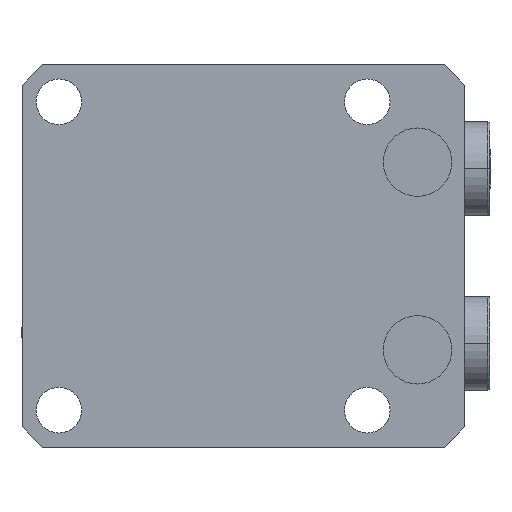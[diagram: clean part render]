
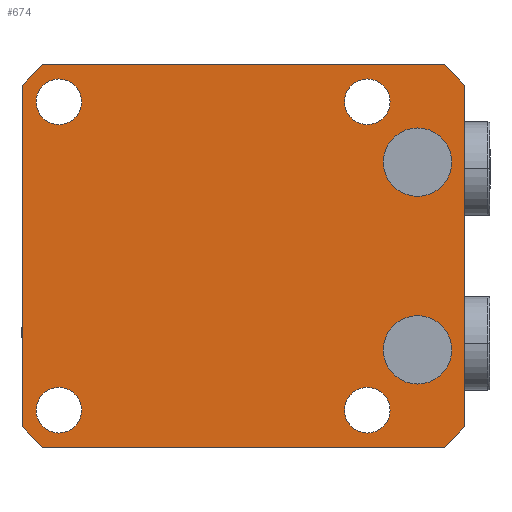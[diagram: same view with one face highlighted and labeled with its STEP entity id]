
A CAD part, front view. The second image highlights one B-rep face of the part: STEP entity #674.
In plain terms, the highlighted planar face has unit normal (0, -1, 0).
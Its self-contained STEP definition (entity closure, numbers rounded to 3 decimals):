
#256=PLANE('',#5001);
#310=FACE_BOUND('',#1192,.T.);
#311=FACE_BOUND('',#1193,.T.);
#312=FACE_BOUND('',#1194,.T.);
#313=FACE_BOUND('',#1195,.T.);
#314=FACE_BOUND('',#1196,.T.);
#315=FACE_BOUND('',#1197,.T.);
#316=FACE_BOUND('',#1198,.T.);
#674=ADVANCED_FACE('',(#310,#311,#312,#313,#314,#315,#316),#256,.T.);
#1192=EDGE_LOOP('',(#2981,#2982));
#1193=EDGE_LOOP('',(#2983,#2984));
#1194=EDGE_LOOP('',(#2985,#2986));
#1195=EDGE_LOOP('',(#2987,#2988));
#1196=EDGE_LOOP('',(#2989,#2990));
#1197=EDGE_LOOP('',(#2991,#2992));
#1198=EDGE_LOOP('',(#2993,#2994,#2995,#2996,#2997,#2998,#2999,#3000));
#1528=LINE('',#7769,#1862);
#1548=LINE('',#8021,#1882);
#1549=LINE('',#8024,#1883);
#1550=LINE('',#8025,#1884);
#1551=LINE('',#8027,#1885);
#1552=LINE('',#8029,#1886);
#1553=LINE('',#8031,#1887);
#1554=LINE('',#8033,#1888);
#1862=VECTOR('',#6206,1.);
#1882=VECTOR('',#6270,1.);
#1883=VECTOR('',#6271,1.);
#1884=VECTOR('',#6272,1.);
#1885=VECTOR('',#6273,1.);
#1886=VECTOR('',#6274,1.);
#1887=VECTOR('',#6275,1.);
#1888=VECTOR('',#6276,1.);
#2981=ORIENTED_EDGE('',*,*,#4220,.F.);
#2982=ORIENTED_EDGE('',*,*,#4082,.F.);
#2983=ORIENTED_EDGE('',*,*,#4221,.F.);
#2984=ORIENTED_EDGE('',*,*,#4086,.F.);
#2985=ORIENTED_EDGE('',*,*,#4213,.T.);
#2986=ORIENTED_EDGE('',*,*,#4148,.T.);
#2987=ORIENTED_EDGE('',*,*,#4209,.T.);
#2988=ORIENTED_EDGE('',*,*,#4156,.T.);
#2989=ORIENTED_EDGE('',*,*,#4207,.T.);
#2990=ORIENTED_EDGE('',*,*,#4160,.T.);
#2991=ORIENTED_EDGE('',*,*,#4211,.T.);
#2992=ORIENTED_EDGE('',*,*,#4152,.T.);
#2993=ORIENTED_EDGE('',*,*,#4222,.F.);
#2994=ORIENTED_EDGE('',*,*,#4223,.T.);
#2995=ORIENTED_EDGE('',*,*,#4176,.F.);
#2996=ORIENTED_EDGE('',*,*,#4224,.T.);
#2997=ORIENTED_EDGE('',*,*,#4225,.F.);
#2998=ORIENTED_EDGE('',*,*,#4226,.T.);
#2999=ORIENTED_EDGE('',*,*,#4227,.F.);
#3000=ORIENTED_EDGE('',*,*,#4228,.T.);
#3506=VERTEX_POINT('',#7456);
#3507=VERTEX_POINT('',#7458);
#3510=VERTEX_POINT('',#7465);
#3511=VERTEX_POINT('',#7467);
#3564=VERTEX_POINT('',#7697);
#3565=VERTEX_POINT('',#7698);
#3568=VERTEX_POINT('',#7706);
#3569=VERTEX_POINT('',#7707);
#3572=VERTEX_POINT('',#7715);
#3573=VERTEX_POINT('',#7716);
#3576=VERTEX_POINT('',#7724);
#3577=VERTEX_POINT('',#7725);
#3592=VERTEX_POINT('',#7770);
#3593=VERTEX_POINT('',#7771);
#3615=VERTEX_POINT('',#8022);
#3616=VERTEX_POINT('',#8023);
#3617=VERTEX_POINT('',#8026);
#3618=VERTEX_POINT('',#8028);
#3619=VERTEX_POINT('',#8030);
#3620=VERTEX_POINT('',#8032);
#4082=EDGE_CURVE('',#3506,#3507,#4484,.T.);
#4086=EDGE_CURVE('',#3510,#3511,#4486,.T.);
#4148=EDGE_CURVE('',#3564,#3565,#4506,.T.);
#4152=EDGE_CURVE('',#3568,#3569,#4508,.T.);
#4156=EDGE_CURVE('',#3572,#3573,#4510,.T.);
#4160=EDGE_CURVE('',#3576,#3577,#4512,.T.);
#4176=EDGE_CURVE('',#3592,#3593,#1528,.T.);
#4207=EDGE_CURVE('',#3577,#3576,#4518,.T.);
#4209=EDGE_CURVE('',#3573,#3572,#4520,.T.);
#4211=EDGE_CURVE('',#3569,#3568,#4522,.T.);
#4213=EDGE_CURVE('',#3565,#3564,#4524,.T.);
#4220=EDGE_CURVE('',#3507,#3506,#4527,.T.);
#4221=EDGE_CURVE('',#3511,#3510,#4528,.T.);
#4222=EDGE_CURVE('',#3615,#3616,#1548,.T.);
#4223=EDGE_CURVE('',#3615,#3593,#1549,.T.);
#4224=EDGE_CURVE('',#3592,#3617,#1550,.T.);
#4225=EDGE_CURVE('',#3618,#3617,#1551,.T.);
#4226=EDGE_CURVE('',#3618,#3619,#1552,.T.);
#4227=EDGE_CURVE('',#3620,#3619,#1553,.T.);
#4228=EDGE_CURVE('',#3620,#3616,#1554,.T.);
#4484=CIRCLE('',#4925,5.1);
#4486=CIRCLE('',#4928,5.1);
#4506=CIRCLE('',#4962,3.4);
#4508=CIRCLE('',#4965,3.4);
#4510=CIRCLE('',#4968,3.4);
#4512=CIRCLE('',#4971,3.4);
#4518=CIRCLE('',#4985,3.4);
#4520=CIRCLE('',#4988,3.4);
#4522=CIRCLE('',#4991,3.4);
#4524=CIRCLE('',#4994,3.4);
#4527=CIRCLE('',#4999,5.1);
#4528=CIRCLE('',#5000,5.1);
#4925=AXIS2_PLACEMENT_3D('',#7457,#6059,#6060);
#4928=AXIS2_PLACEMENT_3D('',#7466,#6067,#6068);
#4962=AXIS2_PLACEMENT_3D('',#7696,#6156,#6157);
#4965=AXIS2_PLACEMENT_3D('',#7705,#6164,#6165);
#4968=AXIS2_PLACEMENT_3D('',#7714,#6172,#6173);
#4971=AXIS2_PLACEMENT_3D('',#7723,#6180,#6181);
#4985=AXIS2_PLACEMENT_3D('',#7984,#6238,#6239);
#4988=AXIS2_PLACEMENT_3D('',#7987,#6244,#6245);
#4991=AXIS2_PLACEMENT_3D('',#7990,#6250,#6251);
#4994=AXIS2_PLACEMENT_3D('',#7993,#6256,#6257);
#4999=AXIS2_PLACEMENT_3D('',#8019,#6266,#6267);
#5000=AXIS2_PLACEMENT_3D('',#8020,#6268,#6269);
#5001=AXIS2_PLACEMENT_3D('',#8034,#6277,#6278);
#6059=DIRECTION('',(0.,-1.,0.));
#6060=DIRECTION('',(0.,0.,-1.));
#6067=DIRECTION('',(0.,-1.,0.));
#6068=DIRECTION('',(0.,0.,-1.));
#6156=DIRECTION('',(0.,1.,0.));
#6157=DIRECTION('',(0.,0.,-1.));
#6164=DIRECTION('',(0.,1.,0.));
#6165=DIRECTION('',(0.,0.,-1.));
#6172=DIRECTION('',(0.,1.,0.));
#6173=DIRECTION('',(0.,0.,-1.));
#6180=DIRECTION('',(0.,1.,0.));
#6181=DIRECTION('',(0.,0.,-1.));
#6206=DIRECTION('',(0.,0.,-1.));
#6238=DIRECTION('',(0.,1.,0.));
#6239=DIRECTION('',(0.,0.,-1.));
#6244=DIRECTION('',(0.,1.,0.));
#6245=DIRECTION('',(0.,0.,-1.));
#6250=DIRECTION('',(0.,1.,0.));
#6251=DIRECTION('',(0.,0.,-1.));
#6256=DIRECTION('',(0.,1.,0.));
#6257=DIRECTION('',(0.,0.,-1.));
#6266=DIRECTION('',(0.,-1.,0.));
#6267=DIRECTION('',(0.,0.,-1.));
#6268=DIRECTION('',(0.,-1.,0.));
#6269=DIRECTION('',(0.,0.,-1.));
#6270=DIRECTION('',(-1.,0.,0.));
#6271=DIRECTION('',(0.707,0.,0.707));
#6272=DIRECTION('',(-0.707,0.,0.707));
#6273=DIRECTION('',(1.,0.,0.));
#6274=DIRECTION('',(-0.707,0.,-0.707));
#6275=DIRECTION('',(0.,0.,1.));
#6276=DIRECTION('',(0.707,0.,-0.707));
#6277=DIRECTION('',(0.,-1.,0.));
#6278=DIRECTION('',(0.,0.,-1.));
#7456=CARTESIAN_POINT('',(-30.5,-71.,-8.9));
#7457=CARTESIAN_POINT('',(-30.5,-71.,-14.));
#7458=CARTESIAN_POINT('',(-30.5,-71.,-19.1));
#7465=CARTESIAN_POINT('',(-30.5,-71.,19.1));
#7466=CARTESIAN_POINT('',(-30.5,-71.,14.));
#7467=CARTESIAN_POINT('',(-30.5,-71.,8.9));
#7696=CARTESIAN_POINT('',(-23.,-71.,-23.));
#7697=CARTESIAN_POINT('',(-23.,-71.,-26.4));
#7698=CARTESIAN_POINT('',(-23.,-71.,-19.6));
#7705=CARTESIAN_POINT('',(23.,-71.,23.));
#7706=CARTESIAN_POINT('',(23.,-71.,19.6));
#7707=CARTESIAN_POINT('',(23.,-71.,26.4));
#7714=CARTESIAN_POINT('',(-23.,-71.,23.));
#7715=CARTESIAN_POINT('',(-23.,-71.,19.6));
#7716=CARTESIAN_POINT('',(-23.,-71.,26.4));
#7723=CARTESIAN_POINT('',(23.,-71.,-23.));
#7724=CARTESIAN_POINT('',(23.,-71.,-26.4));
#7725=CARTESIAN_POINT('',(23.,-71.,-19.6));
#7769=CARTESIAN_POINT('',(28.5,-71.,-28.5));
#7770=CARTESIAN_POINT('',(28.5,-71.,25.5));
#7771=CARTESIAN_POINT('',(28.5,-71.,-25.5));
#7984=CARTESIAN_POINT('',(23.,-71.,-23.));
#7987=CARTESIAN_POINT('',(-23.,-71.,23.));
#7990=CARTESIAN_POINT('',(23.,-71.,23.));
#7993=CARTESIAN_POINT('',(-23.,-71.,-23.));
#8019=CARTESIAN_POINT('',(-30.5,-71.,-14.));
#8020=CARTESIAN_POINT('',(-30.5,-71.,14.));
#8021=CARTESIAN_POINT('',(28.5,-71.,-28.5));
#8022=CARTESIAN_POINT('',(25.5,-71.,-28.5));
#8023=CARTESIAN_POINT('',(-34.5,-71.,-28.5));
#8024=CARTESIAN_POINT('',(55.5,-71.,1.5));
#8025=CARTESIAN_POINT('',(27.,-71.,27.));
#8026=CARTESIAN_POINT('',(25.5,-71.,28.5));
#8027=CARTESIAN_POINT('',(28.5,-71.,28.5));
#8028=CARTESIAN_POINT('',(-34.5,-71.,28.5));
#8029=CARTESIAN_POINT('',(-3.,-71.,60.));
#8030=CARTESIAN_POINT('',(-37.5,-71.,25.5));
#8031=CARTESIAN_POINT('',(-37.5,-71.,28.5));
#8032=CARTESIAN_POINT('',(-37.5,-71.,-25.5));
#8033=CARTESIAN_POINT('',(-31.5,-71.,-31.5));
#8034=CARTESIAN_POINT('',(28.5,-71.,28.5));
